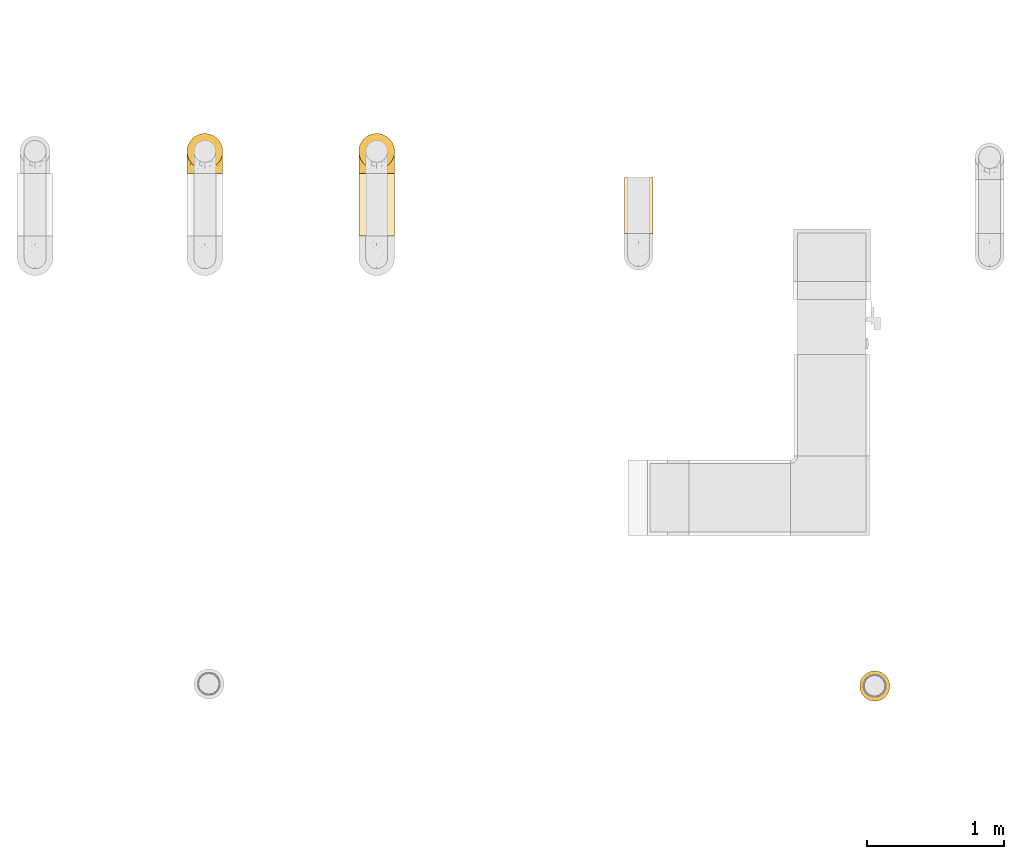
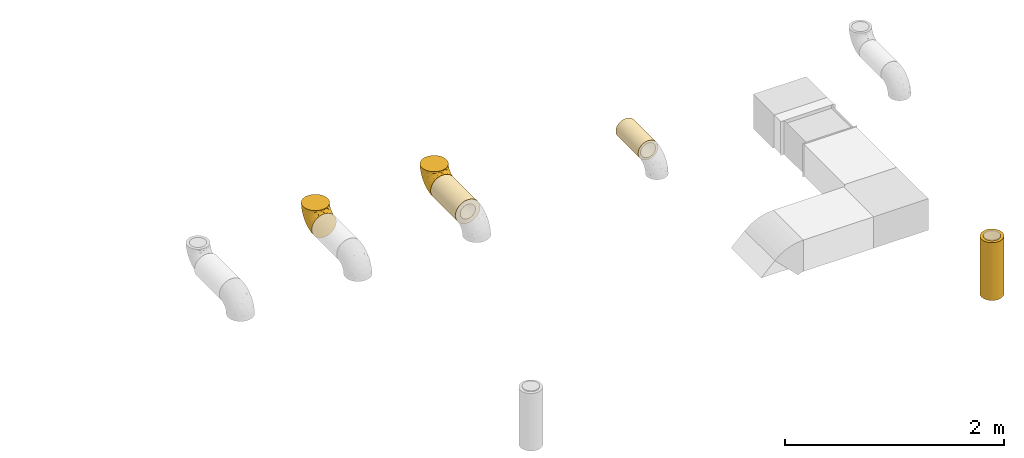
# One storey, part 3 of 14: 5 coverings.
"""IFC2X3 building model written with IfcOpenShell, lengths in millimetres."""

import ifcopenshell
import ifcopenshell.guid

model = None  # the IFC model being written
_history = None  # IfcOwnerHistory: only IFC2X3 demands one
_inside = {}  # id of a spatial element -> (the spatial element, [elements in it])
_under = {}  # id of a project, library or spatial element -> (it, [spatial elements below it])
_declared = {}  # id of a project -> (the project, [libraries it declares])
_typed = {}  # id of a type object -> (the type object, [elements of that type])
_made_of = {}  # id of a material, layer set ... -> (it, [elements and type objects made of it])


def new_model(schema):
    """Start an empty IFC model of exactly this schema.

    Asked for "IFC4X3", IfcOpenShell would pick the latest addendum, in which some entities
    have other attributes; the version numbers below select the first issue.
    IFC2X3 requires an IfcOwnerHistory on every rooted entity: one is made here for all.
    """
    global model, _history
    if schema == "IFC4X3":
        model = ifcopenshell.file(schema_version=(4, 3, 0, 0))
    else:
        model = ifcopenshell.file(schema=schema)
    _inside.clear()
    _under.clear()
    _declared.clear()
    _typed.clear()
    _made_of.clear()
    _history = None
    if model.schema == "IFC2X3":
        org = make("IfcOrganization", Name="unknown")
        user = make(
            "IfcPersonAndOrganization",
            ThePerson=make("IfcPerson", FamilyName="unknown"),
            TheOrganization=org,
        )
        app = make(
            "IfcApplication",
            ApplicationDeveloper=org,
            Version="unknown",
            ApplicationFullName="unknown",
            ApplicationIdentifier="unknown",
        )
        _history = make(
            "IfcOwnerHistory",
            OwningUser=user,
            OwningApplication=app,
            ChangeAction="ADDED",
            CreationDate=0,
        )
    return model


def make(cls, **values):
    """One entity of the class cls with the attributes given. An attribute that is None is left unset."""
    return model.create_entity(
        cls, **{name: value for name, value in values.items() if value is not None}
    )


def entity(cls, *values):
    """Any entity or typed value of the class cls, its attributes in the order of the schema. None: left unset."""
    e = model.create_entity(cls)
    for i, value in enumerate(values):
        if value is not None:
            e[i] = value
    return e


def rooted(cls, **values):
    """An entity with a GlobalId (a new one), such as an element, a storey or a relation."""
    return make(cls, GlobalId=ifcopenshell.guid.new(), OwnerHistory=_history, **values)


def si_unit(unit_type, name, prefix=None):
    """IfcSIUnit, for example si_unit("LENGTHUNIT", "METRE", prefix="MILLI")."""
    return make("IfcSIUnit", UnitType=unit_type, Prefix=prefix, Name=name)


def converted_unit(unit_type, name, factor, base, dimensions=None, offset=None):
    """IfcConversionBasedUnit, such as the inch: factor (a typed value) times the base unit."""
    return make(
        "IfcConversionBasedUnit"
        if offset is None
        else "IfcConversionBasedUnitWithOffset",
        ConversionOffset=offset,
        Dimensions=None
        if dimensions is None
        else entity("IfcDimensionalExponents", *dimensions),
        UnitType=unit_type,
        Name=name,
        ConversionFactor=make(
            "IfcMeasureWithUnit", ValueComponent=factor, UnitComponent=base
        ),
    )


def derived_unit(unit_type, elements):
    """IfcDerivedUnit: a product of units, each with its exponent."""
    return make(
        "IfcDerivedUnit",
        Elements=[
            make("IfcDerivedUnitElement", Unit=unit, Exponent=power)
            for unit, power in elements
        ],
        UnitType=unit_type,
    )


def assignment(units):
    """IfcUnitAssignment: the units of a project."""
    return None if units is None else make("IfcUnitAssignment", Units=units)


def point(xyz):
    """IfcCartesianPoint."""
    return None if xyz is None else make("IfcCartesianPoint", Coordinates=xyz)


def direction(xyz):
    """IfcDirection."""
    return None if xyz is None else make("IfcDirection", DirectionRatios=xyz)


def frame(location, z_axis=None, x_axis=None):
    """IfcAxis2Placement3D, a coordinate frame: its origin and axes. An axis left out is left unset."""
    return make(
        "IfcAxis2Placement3D",
        Location=point(location),
        Axis=direction(z_axis),
        RefDirection=direction(x_axis),
    )


def frame_2d(location, x_axis=None):
    """IfcAxis2Placement2D, a coordinate frame in the plane: its origin and x axis."""
    return make(
        "IfcAxis2Placement2D", Location=point(location), RefDirection=direction(x_axis)
    )


def origin_with_axes():
    """The frame at (0, 0, 0) with the z axis (0, 0, 1) and the x axis (1, 0, 0) written out."""
    return frame((0.0, 0.0, 0.0), z_axis=(0.0, 0.0, 1.0), x_axis=(1.0, 0.0, 0.0))


def origin_2d_with_axis():
    """The frame at (0, 0) in the plane with the x axis (1, 0) written out."""
    return frame_2d((0.0, 0.0), x_axis=(1.0, 0.0))


def place(relative_to, where):
    """IfcLocalPlacement: puts the frame where relative to a parent placement (None: the world)."""
    return make(
        "IfcLocalPlacement", PlacementRelTo=relative_to, RelativePlacement=where
    )


def context(
    kind, dimensions, precision=None, world=None, true_north=None, identifier=None
):
    """IfcGeometricRepresentationContext, for example the 3D "Model" context."""
    return make(
        "IfcGeometricRepresentationContext",
        ContextIdentifier=identifier,
        ContextType=kind,
        CoordinateSpaceDimension=dimensions,
        Precision=precision,
        WorldCoordinateSystem=world,
        TrueNorth=true_north,
    )


def subcontext(parent, identifier, kind, view, scale=None):
    """IfcGeometricRepresentationSubContext, for example "Body" below "Model"."""
    return make(
        "IfcGeometricRepresentationSubContext",
        ContextIdentifier=identifier,
        ContextType=kind,
        ParentContext=parent,
        TargetScale=scale,
        TargetView=view,
    )


def project(units=None, contexts=None):
    """IfcProject with its units and contexts."""
    return rooted(
        "IfcProject",
        Name="project",
        RepresentationContexts=contexts,
        UnitsInContext=assignment(units),
    )


def spatial(cls, under=None, at=None, **own):
    """A site, building, storey or space (cls), placed at a placement, below another one or the project."""
    s = rooted(cls, ObjectPlacement=at, **own)
    if under is not None:
        _under.setdefault(under.id(), (under, []))[1].append(s)
    return s


def profile(cls, at=None, kind="AREA", **sizes):
    """A parametric profile (cls). Its sizes go by their IFC names, for example OverallWidth=200.0."""
    return make(cls, ProfileType=kind, Position=at, **sizes)


def hollow_circle(**sizes):
    """IfcCircleHollowProfileDef."""
    return profile("IfcCircleHollowProfileDef", **sizes)


def extrude(swept, where, along, depth):
    """IfcExtrudedAreaSolid: the profile swept, set in the frame where, extruded along a direction by depth."""
    return make(
        "IfcExtrudedAreaSolid",
        SweptArea=swept,
        Position=where,
        ExtrudedDirection=direction(along),
        Depth=depth,
    )


def faces_of(points, faces, orient=None, outer=None):
    """IfcFace entities. A face is a list of loops; a loop is a list of indices into points, from 0.

    orient and outer hold one flag for each loop. By default every Orientation is true, the
    first loop of a face is its IfcFaceOuterBound and the others are IfcFaceBound.
    """
    made = []
    for i, loops in enumerate(faces):
        bounds = []
        for j, loop in enumerate(loops):
            is_outer = j == 0 if outer is None else outer[i][j]
            bounds.append(
                make(
                    "IfcFaceOuterBound" if is_outer else "IfcFaceBound",
                    Bound=make("IfcPolyLoop", Polygon=[points[k] for k in loop]),
                    Orientation=True if orient is None else orient[i][j],
                )
            )
        made.append(make("IfcFace", Bounds=bounds))
    return made


def open_shell(faces, orient=None, outer=None):
    """The faces of one IfcOpenShell. surface_model builds it on its shared points."""
    return ("IfcOpenShell", faces, orient, outer)


def surface_model(cls, points, shells):
    """IfcFaceBasedSurfaceModel or IfcShellBasedSurfaceModel (cls): surfaces that need not close."""
    shared = [point(p) for p in points]
    made = [make(c, CfsFaces=faces_of(shared, fs, o, b)) for c, fs, o, b in shells]
    if cls == "IfcFaceBasedSurfaceModel":
        return make(cls, FbsmFaces=made)
    return make(cls, SbsmBoundary=made)


def shape(context_of_items, identifier, shape_type, items):
    """IfcShapeRepresentation: the items that make up one representation, for example the "Body"."""
    return make(
        "IfcShapeRepresentation",
        ContextOfItems=context_of_items,
        RepresentationIdentifier=identifier,
        RepresentationType=shape_type,
        Items=items,
    )


def source(mapping_origin, context_of_items, identifier, shape_type, items):
    """IfcRepresentationMap: a shape defined once, which mapped items show again and again."""
    return make(
        "IfcRepresentationMap",
        MappingOrigin=mapping_origin,
        MappedRepresentation=shape(context_of_items, identifier, shape_type, items),
    )


def transform(
    local_origin,
    x_axis=None,
    y_axis=None,
    z_axis=None,
    scale=None,
    scale2=None,
    scale3=None,
    uniform=True,
):
    """IfcCartesianTransformationOperator3D, or its non-uniform kind. x_axis, y_axis, z_axis: its Axis1, 2, 3."""
    if uniform:
        return make(
            "IfcCartesianTransformationOperator3D",
            Axis1=direction(x_axis),
            Axis2=direction(y_axis),
            LocalOrigin=point(local_origin),
            Scale=scale,
            Axis3=direction(z_axis),
        )
    return make(
        "IfcCartesianTransformationOperator3DnonUniform",
        Axis1=direction(x_axis),
        Axis2=direction(y_axis),
        LocalOrigin=point(local_origin),
        Scale=scale,
        Axis3=direction(z_axis),
        Scale2=scale2,
        Scale3=scale3,
    )


def mapped(mapping_source, mapping_target):
    """IfcMappedItem: shows the shape of a source again, moved by a transform."""
    return make(
        "IfcMappedItem", MappingSource=mapping_source, MappingTarget=mapping_target
    )


def made_of(thing, what):
    """Note that an element or type object is made of a material, layer set ...; save() writes the relation."""
    if what is not None:
        _made_of.setdefault(what.id(), (what, []))[1].append(thing)
    return thing


def element(
    cls,
    number,
    at=None,
    inside=None,
    cuts=None,
    type_object=None,
    material=None,
    context=None,
    identifier="Body",
    shape_type=None,
    held_by="IfcProductDefinitionShape",
    body=None,
    shapes=None,
    **own,
):
    """One element of the class cls, such as IfcWall. Its Tag is "e" and its number.

    at: its placement. inside: the storey or other place that contains it. cuts: it is an
    opening in that element (IfcRelVoidsElement). A single representation is given by context,
    identifier, shape_type and body (its items); several are given by shapes. held_by: the class
    of the entity that holds the representations. save() writes the other relations.
    """
    e = rooted(cls, Tag="e%d" % number, ObjectPlacement=at, **own)
    if body is not None:
        shapes = [shape(context, identifier, shape_type, body)]
    if shapes is not None:
        e.Representation = make(held_by, Representations=shapes)
    if inside is not None:
        _inside.setdefault(inside.id(), (inside, []))[1].append(e)
    if cuts is not None:
        rooted(
            "IfcRelVoidsElement", RelatingBuildingElement=cuts, RelatedOpeningElement=e
        )
    if type_object is not None:
        _typed.setdefault(type_object.id(), (type_object, []))[1].append(e)
    return made_of(e, material)


def aggregate(whole, parts):
    """IfcRelAggregates: a whole, such as a stair, and the parts it consists of."""
    return rooted("IfcRelAggregates", RelatingObject=whole, RelatedObjects=parts)


def save(model, path):
    """Write the relations noted so far, then the file.

    IfcRelAggregates (storeys below a building ...), IfcRelContainedInSpatialStructure (elements
    in a storey), IfcRelDefinesByType, IfcRelAssociatesMaterial and IfcRelDeclares: one each for
    every whole, place, type object, material and project.
    """
    for whole, parts in _under.values():
        aggregate(whole, parts)
    for where, things in _inside.values():
        rooted(
            "IfcRelContainedInSpatialStructure",
            RelatedElements=things,
            RelatingStructure=where,
        )
    for kind, things in _typed.values():
        rooted("IfcRelDefinesByType", RelatedObjects=things, RelatingType=kind)
    for what, things in _made_of.values():
        rooted("IfcRelAssociatesMaterial", RelatedObjects=things, RelatingMaterial=what)
    for by, libraries in _declared.values():
        rooted("IfcRelDeclares", RelatingContext=by, RelatedDefinitions=libraries)
    model.write(path)


model = new_model("IFC2X3")

# Units and contexts
model_context = context("Model", 3, precision=0.01, world=frame((0.0, 4.29681676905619e-09, 0.0)), true_north=direction((4.01073788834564e-13, 1.0)))
plan_context = context("Plan", 3, precision=0.01, world=frame((0.0, 4.29681676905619e-09, 0.0)), true_north=direction((4.01073788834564e-13, 1.0)))
body_context = subcontext(model_context, "Body", "Model", "MODEL_VIEW")
ifc_project = project(units=[converted_unit("PLANEANGLEUNIT", "DEGREE", entity("IfcPositiveLengthMeasure", 0.0174532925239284), si_unit("PLANEANGLEUNIT", "RADIAN"), dimensions=[0, 0, 0, 0, 0, 0, 0]), si_unit("AREAUNIT", "SQUARE_METRE"), si_unit("LENGTHUNIT", "METRE", prefix="MILLI"), si_unit("MASSUNIT", "GRAM", prefix="KILO"), si_unit("POWERUNIT", "WATT"), si_unit("PRESSUREUNIT", "PASCAL", prefix="KILO"), si_unit("FORCEUNIT", "NEWTON", prefix="KILO"), si_unit("ELECTRICVOLTAGEUNIT", "VOLT"), si_unit("ELECTRICCURRENTUNIT", "AMPERE"), si_unit("THERMODYNAMICTEMPERATUREUNIT", "DEGREE_CELSIUS"), si_unit("TIMEUNIT", "SECOND"), si_unit("VOLUMEUNIT", "CUBIC_METRE"), derived_unit("LINEARVELOCITYUNIT", [(si_unit("LENGTHUNIT", "METRE"), 1), (si_unit("TIMEUNIT", "SECOND"), -1)]), derived_unit("VOLUMETRICFLOWRATEUNIT", [(si_unit("VOLUMEUNIT", "CUBIC_METRE"), 1), (si_unit("TIMEUNIT", "SECOND"), -1)]), derived_unit("THERMALTRANSMITTANCEUNIT", [(si_unit("POWERUNIT", "WATT"), 1), (si_unit("THERMODYNAMICTEMPERATUREUNIT", "KELVIN"), -1), (si_unit("AREAUNIT", "SQUARE_METRE"), -1)]), derived_unit("SOUNDPRESSUREUNIT", [(si_unit("PRESSUREUNIT", "PASCAL"), 1)])], contexts=[model_context, plan_context])

# Site, building, storey
site_placement = place(None, frame((0.0, -4.29681676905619e-09, 0.0), z_axis=(0.0, 0.0, 1.0), x_axis=(1.0, 0.0, 0.0)))
site = spatial("IfcSite", under=ifc_project, at=site_placement, CompositionType="ELEMENT")
building_placement = place(site_placement, frame((0.0, 4.29681676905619e-09, 0.0), z_axis=(0.0, 0.0, 1.0), x_axis=(1.0, 0.0, 0.0)))
building = spatial("IfcBuilding", under=site, at=building_placement, Name="mc-building", CompositionType="ELEMENT")
storey_placement = place(building_placement, frame((0.0, 0.0, 205200.0), z_axis=(0.0, 0.0, 1.0), x_axis=(1.0, 0.0, 0.0)))
storey = spatial("IfcBuildingStorey", under=building, at=storey_placement, Name="Nivå D + 1,2 m", CompositionType="ELEMENT", Elevation=205200.0)

# Coverings
shared_shape_1 = source(origin_with_axes(), body_context, "Body", "SweptSolid", [
    extrude(hollow_circle(Radius=110.0, WallThickness=30.0, at=origin_2d_with_axis()), frame((0.0, 0.0, 0.0), z_axis=(1.0, 0.0, 0.0), x_axis=(0.0, 1.0, 0.0)), (0.0, 0.0, 1.0), 644.4),
])
covering_1_placement = place(storey_placement, frame((347455.32437, 462060.0, 4506.87568999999), z_axis=(0.0, -1.0, 0.0), x_axis=(0.0, 0.0, -1.0)))
element("IfcCovering", 1, at=covering_1_placement, inside=storey, Name="B-EI60", PredefinedType="INSULATION", context=body_context, shape_type="MappedRepresentation", body=[
    mapped(shared_shape_1, transform((0.0, 0.0, 0.0), scale=1.0)),
])
shared_shape_2 = source(origin_with_axes(), body_context, "Body", "SweptSolid", [
    extrude(hollow_circle(Radius=130.0, WallThickness=50.0, at=origin_2d_with_axis()), frame((0.0, 0.0, 0.0), z_axis=(1.0, 0.0, 0.0), x_axis=(0.0, 1.0, 0.0)), (0.0, 0.0, 1.0), 455.0),
])
covering_2_placement = place(storey_placement, frame((343825.73195, 465796.0, 4060.0), z_axis=(0.0, 0.0, 1.0), x_axis=(0.0, -1.0, 0.0)))
element("IfcCovering", 2, at=covering_2_placement, inside=storey, Name="B-EI60", PredefinedType="INSULATION", context=body_context, shape_type="MappedRepresentation", body=[
    mapped(shared_shape_2, transform((0.0, 0.0, 0.0), scale=1.0)),
])
shared_shape_3 = source(origin_with_axes(), body_context, "Body", "SweptSolid", [
    extrude(hollow_circle(Radius=105.0, WallThickness=25.0, at=origin_2d_with_axis()), frame((0.0, 0.0, 0.0), z_axis=(1.0, 0.0, 0.0), x_axis=(0.0, 1.0, 0.0)), (0.0, 0.0, 1.0), 410.0),
])
covering_3_placement = place(storey_placement, frame((345734.4963, 465766.0, 4065.0), z_axis=(0.0, 0.0, 1.0), x_axis=(0.0, -1.0, 0.0)))
element("IfcCovering", 3, at=covering_3_placement, inside=storey, Name="B-EI60", PredefinedType="INSULATION", context=body_context, shape_type="MappedRepresentation", body=[
    mapped(shared_shape_3, transform((0.0, 0.0, 0.0), scale=1.0)),
])
shared_shape_4 = source(origin_with_axes(), body_context, "Body", "SurfaceModel", [
    surface_model("IfcShellBasedSurfaceModel", [(59.01724, 160.0, 115.83162), (76.41026, 160.0, 105.17353), (40.17112, 160.0, 123.6377), (20.33591, 160.0, 128.39958), (0.0, 160.0, 130.0), (91.92191, 160.0, 91.92586), (105.17026, 160.0, 76.41477), (123.636, 160.0, 40.17634), (-128.3987, 160.0, -20.3414), (115.8291, 160.0, 59.02218), (-123.6377, 160.0, 40.17112), (-130.0, 160.0, 0.0), (-40.17634, 160.0, 123.636), (-20.3414, 160.0, 128.3987), (-59.02218, 160.0, 115.8291), (-76.41477, 160.0, 105.17026), (-105.17353, 160.0, 76.41026), (-91.92586, 160.0, 91.92191), (-115.83162, 160.0, 59.01724), (-128.39958, 160.0, 20.33591), (128.3987, 160.0, 20.3414), (130.0, 160.0, 0.0), (128.39958, 160.0, -20.33591), (123.6377, 160.0, -40.17112), (115.83162, 160.0, -59.01724), (105.17353, 160.0, -76.41026), (91.92586, 160.0, -91.92191), (76.41477, 160.0, -105.17026), (59.02218, 160.0, -115.8291), (40.17634, 160.0, -123.636), (20.3414, 160.0, -128.3987), (-91.92191, 160.0, -91.92586), (-105.17026, 160.0, -76.41477), (-115.8291, 160.0, -59.02218), (-123.636, 160.0, -40.17634), (0.0, 160.0, -130.0), (-20.33591, 160.0, -128.39958), (-40.17112, 160.0, -123.6377), (-59.01724, 160.0, -115.83162), (-76.41026, 160.0, -105.17353), (-160.0, 125.57036, -33.64648), (-160.0, 125.57036, 33.64648), (-160.0, 130.0, 0.0), (-160.0, 91.92389, -91.92389), (-160.0, 112.5833, -65.0), (-160.0, -65.0, 112.5833), (-160.0, 65.0, -112.5833), (-160.0, 91.92389, 91.92389), (-160.0, 112.5833, 65.0), (-160.0, 65.0, 112.5833), (-160.0, 0.0, 130.0), (-160.0, 33.64648, 125.57036), (-160.0, 0.0, -130.0), (-160.0, 33.64648, -125.57036), (-160.0, -112.5833, -65.0), (-160.0, -33.64648, -125.57036), (-160.0, -65.0, -112.5833), (-160.0, -91.92389, -91.92389), (-160.0, -130.0, 0.0), (-160.0, -125.57036, -33.64648), (-160.0, -91.92389, 91.92389), (-160.0, -33.64648, 125.57036), (-160.0, -125.57036, 33.64648), (-160.0, -112.5833, 65.0), (-80.56859, -113.93793, 34.92222), (-103.42381, -124.42773, 0.0), (-49.0218, -107.92506, 0.0), (30.5519, 90.52532, 122.74476), (1.92649, 27.23352, 120.24946), (18.06969, 10.31659, 107.82278), (-5.45187, 118.58896, 130.0), (60.2514, -19.71714, 38.17313), (0.38415, -76.85773, 31.8021), (45.06097, -45.06097, 0.0), (1.11537, -81.12619, 0.0), (-38.91511, -97.55879, 37.0734), (47.56262, 21.39155, 94.20115), (18.09358, -17.46536, 92.42646), (95.71492, 96.52468, 78.69474), (74.36661, 45.52112, 82.05479), (91.14617, 44.6794, 57.97438), (-104.20453, -51.06398, 116.18709), (81.12619, -1.11537, 0.0), (118.65978, 86.76705, 22.01661), (-67.00054, -19.16596, 123.07457), (-117.52666, -20.23866, 127.53899), (60.55201, 65.21026, 102.42348), (-72.05195, -72.61796, 95.04919), (-122.03525, -80.26666, 99.84908), (-98.59574, -99.91118, 73.735), (69.21672, 113.88396, 107.01459), (-80.0, 21.43593, 130.0), (-118.58896, 5.45187, 130.0), (-16.10718, 45.25329, 127.75726), (-43.86731, -39.65589, 108.91558), (-21.43593, 80.0, 130.0), (-46.86291, 46.86291, 130.0), (102.80175, 45.84894, 29.86674), (114.75684, 97.16736, 45.30616), (107.92506, 49.0218, 0.0), (124.42773, 103.42381, 0.0), (58.67526, -1.90029, 65.85452), (19.79358, -50.20166, 57.47359), (-22.80235, -51.5335, 91.71715), (-33.84576, -85.97704, 57.80577), (-43.57231, -76.483, 78.54388), (-122.84247, 32.51828, 127.11974), (-148.93028, 121.67083, 49.74884), (-100.38724, 42.93862, 126.80733), (-83.08085, 59.75703, 125.57035), (-102.76006, 73.06654, 117.36095), (-123.30349, 144.34796, 49.74752), (-112.07813, 149.05553, 67.92312), (-127.25149, 152.52085, 30.34706), (-117.80872, 58.14121, 120.10434), (-88.18017, 136.49148, 98.85079), (-109.71269, 134.46857, 78.52708), (-96.64882, 124.06407, 96.44717), (-140.85509, 51.42381, 120.10434), (-36.17624, 103.62797, 127.77516), (-33.60716, 131.13233, 126.407), (-58.59313, 116.74345, 120.10277), (-56.48318, 80.56876, 126.60401), (-153.54771, 128.00772, 26.04855), (-147.1112, 130.09003, 25.71562), (-135.39813, 108.73335, 79.13898), (-128.08215, 119.51038, 71.6951), (-140.04413, 124.92474, 50.84316), (-148.44866, 104.32157, 79.13898), (-139.07163, 81.89426, 103.13593), (-116.2547, 90.19915, 104.28096), (-130.77817, 146.14604, 24.55224), (-132.77742, 149.63454, 0.0), (-131.38871, 154.81728, 0.0), (-85.71567, 89.58716, 116.51961), (-57.53496, 138.8905, 117.61255), (-134.01924, 145.0, 0.0), (-139.50962, 139.50962, 0.0), (-136.22948, 138.08336, 24.51438), (-121.78743, 129.40288, 67.59095), (-102.53761, 110.92036, 98.85079), (-133.55963, 131.68837, 46.85673), (-129.71079, 138.90674, 41.81982), (-141.0659, 133.70241, 24.88843), (-145.0, 134.01924, 0.0), (-81.61176, 111.04042, 111.05478), (-152.49999, 132.00962, 0.0), (-138.81563, 125.08003, -51.97789), (-137.31917, 107.85499, -79.13899), (-149.44384, 121.52622, -49.74885), (-127.25034, 152.52009, -30.35243), (-130.77776, 146.14585, -24.55463), (-78.42372, 53.68772, -127.37422), (-103.9756, 38.47486, -127.33605), (-96.41185, 77.13031, -117.53616), (-149.5817, 104.09847, -79.13898), (-134.74212, 140.63942, -21.70294), (-128.8988, 139.91441, -42.15093), (-132.17222, 133.92065, -45.27347), (-130.4961, 29.82337, -127.26584), (-118.58896, 5.45187, -130.0), (-153.90073, 128.24664, -24.52244), (-140.83175, 81.44377, -103.13594), (-80.0, 21.43593, -130.0), (-46.86291, 46.86291, -130.0), (-123.30205, 144.34596, -49.75263), (-127.14874, 124.71109, -66.36046), (-125.74004, 55.207, -120.10434), (-70.23437, 139.49919, -110.84426), (-114.5586, 119.08173, -84.43058), (-88.05841, 100.60304, -111.58038), (-110.88683, 99.25574, -100.96962), (-118.48442, 151.4471, -55.3831), (-101.88489, 140.97739, -84.43058), (-120.31238, 80.31896, -108.91066), (-120.52187, 133.49991, -65.22626), (-138.70887, 135.81532, -23.92906), (-87.35385, 123.11675, -103.6026), (-105.96506, 128.61253, -85.9751), (-58.58706, 116.74466, -120.10489), (-33.60151, 131.13292, -126.40829), (-36.17161, 103.62951, -127.77582), (-59.07493, 82.55747, -125.79757), (-5.45187, 118.58896, -130.0), (-21.43593, 80.0, -130.0), (-147.58241, 130.02129, -25.1132), (-125.51039, 112.08565, -81.89255), (-76.76775, -9.21803, -126.81953), (-38.63679, 20.47339, -127.58847), (-27.19988, -1.96041, -120.22991), (91.15216, 44.68818, -57.97081), (98.0984, 113.49398, -80.27422), (114.75956, 97.17171, -45.30163), (-160.0, -16.82324, -127.78518), (-114.4618, -28.53532, -125.48675), (12.67496, 73.34989, -125.69007), (10.77656, 30.86585, -118.20669), (-75.21657, -43.37087, -115.15021), (-122.03353, -80.26658, -99.84893), (-98.59494, -99.91103, -73.73492), (67.04383, 3.10858, -58.72921), (61.56116, 21.5886, -81.54865), (-80.5684, -113.93812, -34.92137), (51.77643, 111.81077, -116.74465), (42.51659, 61.72003, -112.52305), (-72.04914, -72.61722, -95.0489), (-113.64656, -61.02019, -112.10082), (-29.31416, -41.71237, -102.19767), (35.49308, -28.81692, -66.35641), (60.251, -19.71673, -38.17498), (-33.84507, -85.97776, -57.80383), (15.69599, -61.27922, -43.38087), (-24.96098, -92.95649, -28.90987), (-0.08404, -7.13085, -108.69414), (18.09601, -17.46805, -92.42289), (41.74402, 24.26728, -99.92678), (79.83278, 81.96377, -91.6378), (-14.12562, -58.28093, -79.91294), (102.8051, 45.85557, -29.8649), (118.66066, 86.76898, -22.01448), (-56.48186, -83.53017, -77.16845)], [open_shell([[[0, 1, 2]], [[3, 2, 1]], [[4, 3, 5]], [[3, 1, 5]], [[6, 7, 8]], [[6, 9, 7]], [[5, 6, 8]], [[5, 10, 4]], [[8, 11, 5]], [[12, 13, 14]], [[15, 16, 17]], [[14, 16, 15]], [[13, 4, 14]], [[16, 14, 18]], [[10, 11, 19]], [[18, 14, 4]], [[4, 10, 18]], [[5, 11, 10]], [[20, 21, 7]], [[21, 22, 23]], [[23, 24, 25]], [[21, 23, 26]], [[26, 23, 25]], [[26, 27, 28]], [[29, 8, 21]], [[21, 28, 29]], [[21, 26, 28]], [[8, 29, 30]], [[31, 32, 33]], [[8, 33, 34]], [[33, 8, 31]], [[31, 8, 35]], [[35, 36, 37]], [[31, 38, 39]], [[31, 37, 38]], [[37, 31, 35]], [[8, 30, 35]], [[21, 8, 7]], [[40, 41, 42]], [[43, 40, 44]], [[45, 43, 46]], [[41, 40, 43]], [[43, 45, 41]], [[41, 47, 48]], [[47, 41, 49]], [[49, 50, 51]], [[45, 50, 49]], [[45, 49, 41]], [[52, 46, 53]], [[54, 52, 55]], [[54, 55, 56]], [[52, 54, 45]], [[54, 56, 57]], [[58, 54, 59]], [[54, 60, 45]], [[61, 50, 45]], [[60, 62, 63]], [[62, 60, 58]], [[58, 60, 54]], [[45, 46, 52]], [[64, 65, 66]], [[65, 62, 58]], [[67, 68, 69]], [[70, 67, 3]], [[71, 72, 73]], [[64, 63, 62]], [[74, 75, 66]], [[76, 69, 77]], [[78, 79, 80]], [[72, 75, 74]], [[61, 45, 81]], [[71, 73, 82]], [[83, 20, 7]], [[81, 84, 85]], [[79, 78, 86]], [[50, 61, 85]], [[87, 88, 89]], [[90, 5, 1]], [[2, 67, 90]], [[85, 91, 92]], [[88, 45, 60]], [[93, 84, 68]], [[85, 84, 91]], [[84, 94, 68]], [[95, 96, 93]], [[93, 91, 84]], [[0, 90, 1]], [[97, 98, 80]], [[63, 89, 60]], [[97, 82, 99]], [[7, 9, 98]], [[83, 98, 97]], [[64, 89, 63]], [[98, 83, 7]], [[90, 0, 2]], [[9, 6, 98]], [[78, 90, 86]], [[100, 21, 20]], [[71, 101, 102]], [[6, 78, 98]], [[77, 94, 103]], [[93, 70, 95]], [[78, 6, 5]], [[4, 70, 3]], [[102, 72, 71]], [[70, 93, 67]], [[93, 96, 91]], [[90, 67, 86]], [[64, 104, 89]], [[2, 3, 67]], [[62, 65, 64]], [[98, 78, 80]], [[90, 78, 5]], [[81, 94, 84]], [[67, 93, 68]], [[82, 97, 71]], [[105, 89, 104]], [[80, 79, 101]], [[88, 81, 45]], [[94, 81, 87]], [[103, 94, 87]], [[94, 77, 69]], [[71, 97, 80]], [[83, 99, 100]], [[86, 76, 79]], [[80, 101, 71]], [[76, 101, 79]], [[77, 103, 102]], [[77, 102, 101]], [[72, 102, 104]], [[75, 72, 104]], [[72, 74, 73]], [[86, 67, 69]], [[101, 76, 77]], [[86, 69, 76]], [[94, 69, 68]], [[87, 105, 103]], [[103, 105, 102]], [[89, 105, 87]], [[102, 105, 104]], [[99, 83, 97]], [[20, 83, 100]], [[50, 85, 92]], [[81, 85, 61]], [[89, 88, 60]], [[81, 88, 87]], [[104, 64, 75]], [[66, 75, 64]], [[92, 106, 50]], [[48, 107, 41]], [[108, 109, 110]], [[111, 112, 113]], [[106, 108, 114]], [[115, 112, 116]], [[116, 117, 115]], [[106, 114, 118]], [[119, 120, 121]], [[122, 109, 96]], [[41, 107, 123]], [[107, 124, 123]], [[125, 126, 127]], [[128, 107, 48]], [[129, 130, 125]], [[70, 13, 120]], [[128, 48, 47]], [[129, 49, 118]], [[131, 113, 132]], [[19, 133, 113]], [[120, 119, 70]], [[127, 124, 107]], [[70, 4, 13]], [[134, 110, 109]], [[112, 16, 18]], [[135, 12, 14]], [[51, 118, 49]], [[135, 15, 115]], [[17, 115, 15]], [[135, 120, 12]], [[134, 109, 122]], [[121, 120, 135]], [[18, 10, 113]], [[136, 137, 138]], [[139, 126, 140]], [[112, 18, 113]], [[91, 96, 109]], [[111, 139, 116]], [[131, 132, 136]], [[17, 112, 115]], [[49, 129, 47]], [[19, 113, 10]], [[17, 16, 112]], [[116, 112, 111]], [[113, 131, 111]], [[120, 13, 12]], [[138, 141, 142]], [[142, 111, 131]], [[96, 95, 122]], [[143, 137, 144]], [[134, 130, 110]], [[130, 129, 114]], [[128, 129, 125]], [[111, 142, 139]], [[145, 117, 140]], [[131, 136, 138]], [[142, 141, 139]], [[126, 139, 141]], [[117, 139, 140]], [[110, 114, 108]], [[41, 123, 42]], [[126, 130, 140]], [[119, 122, 95]], [[134, 145, 140]], [[127, 126, 141]], [[126, 125, 130]], [[124, 143, 144]], [[125, 127, 107]], [[143, 127, 141]], [[146, 124, 144]], [[145, 122, 121]], [[130, 134, 140]], [[127, 143, 124]], [[143, 141, 138]], [[129, 128, 47]], [[107, 128, 125]], [[138, 142, 131]], [[143, 138, 137]], [[124, 146, 123]], [[42, 123, 146]], [[122, 119, 121]], [[70, 119, 95]], [[15, 135, 14]], [[115, 121, 135]], [[122, 145, 134]], [[115, 145, 121]], [[115, 117, 145]], [[139, 117, 116]], [[51, 50, 106]], [[129, 118, 114]], [[51, 106, 118]], [[108, 92, 91]], [[92, 108, 106]], [[91, 109, 108]], [[133, 19, 11]], [[133, 132, 113]], [[130, 114, 110]], [[147, 148, 149]], [[150, 151, 132]], [[152, 153, 154]], [[149, 148, 155]], [[156, 157, 158]], [[133, 11, 8]], [[159, 153, 160]], [[161, 42, 146]], [[46, 43, 162]], [[163, 152, 164]], [[52, 53, 159]], [[165, 157, 151]], [[147, 158, 166]], [[53, 46, 167]], [[38, 168, 39]], [[167, 153, 159]], [[169, 170, 171]], [[172, 32, 173]], [[167, 162, 174]], [[155, 43, 44]], [[8, 150, 133]], [[169, 166, 175]], [[176, 137, 156]], [[173, 168, 177]], [[172, 150, 34]], [[44, 40, 149]], [[172, 165, 150]], [[170, 178, 177]], [[177, 168, 179]], [[31, 173, 32]], [[31, 168, 173]], [[38, 180, 168]], [[179, 180, 181]], [[182, 179, 181]], [[38, 37, 180]], [[31, 39, 168]], [[168, 180, 179]], [[174, 171, 154]], [[35, 183, 36]], [[33, 172, 34]], [[136, 132, 151]], [[180, 37, 36]], [[36, 183, 180]], [[182, 184, 164]], [[181, 183, 184]], [[150, 8, 34]], [[151, 150, 165]], [[46, 162, 167]], [[146, 185, 161]], [[176, 147, 185]], [[179, 182, 170]], [[178, 169, 175]], [[152, 182, 164]], [[170, 154, 171]], [[155, 162, 43]], [[167, 174, 154]], [[176, 156, 158]], [[136, 151, 156]], [[137, 136, 156]], [[147, 149, 185]], [[144, 185, 146]], [[186, 166, 169]], [[153, 152, 163]], [[182, 152, 154]], [[160, 153, 163]], [[154, 153, 167]], [[52, 159, 160]], [[53, 167, 159]], [[147, 176, 158]], [[144, 137, 176]], [[185, 144, 176]], [[161, 149, 40]], [[183, 181, 180]], [[182, 181, 184]], [[149, 155, 44]], [[162, 155, 148]], [[32, 172, 33]], [[173, 165, 172]], [[162, 148, 174]], [[171, 186, 169]], [[186, 174, 148]], [[169, 178, 170]], [[179, 170, 177]], [[182, 154, 170]], [[174, 186, 171]], [[147, 186, 148]], [[147, 166, 186]], [[158, 157, 175]], [[158, 175, 166]], [[173, 175, 165]], [[175, 173, 178]], [[173, 177, 178]], [[149, 161, 185]], [[42, 161, 40]], [[151, 157, 156]], [[175, 157, 165]], [[150, 132, 133]], [[187, 188, 189]], [[190, 191, 192]], [[24, 191, 25]], [[193, 160, 194]], [[163, 164, 188]], [[188, 195, 196]], [[197, 187, 189]], [[163, 187, 160]], [[57, 198, 199]], [[184, 195, 188]], [[200, 201, 190]], [[195, 184, 183]], [[199, 202, 54]], [[195, 203, 204]], [[65, 58, 59]], [[194, 55, 193]], [[57, 56, 198]], [[205, 198, 206]], [[207, 205, 197]], [[208, 200, 209]], [[66, 65, 202]], [[210, 211, 212]], [[207, 213, 214]], [[66, 202, 212]], [[57, 199, 54]], [[191, 26, 25]], [[203, 29, 28]], [[203, 28, 27]], [[183, 35, 30]], [[201, 215, 216]], [[65, 59, 202]], [[30, 203, 195]], [[26, 191, 27]], [[206, 55, 194]], [[191, 216, 27]], [[211, 73, 74]], [[217, 208, 211]], [[203, 27, 216]], [[205, 207, 217]], [[209, 200, 218]], [[190, 192, 218]], [[209, 82, 73]], [[218, 82, 209]], [[204, 203, 216]], [[23, 192, 24]], [[192, 191, 24]], [[219, 22, 100]], [[204, 215, 196]], [[21, 100, 22]], [[219, 99, 218]], [[30, 195, 183]], [[216, 191, 190]], [[189, 213, 207]], [[217, 211, 210]], [[193, 52, 160]], [[29, 203, 30]], [[54, 202, 59]], [[219, 23, 22]], [[205, 220, 199]], [[202, 199, 210]], [[219, 218, 192]], [[218, 99, 82]], [[163, 188, 187]], [[188, 164, 184]], [[189, 207, 197]], [[217, 207, 214]], [[208, 217, 214]], [[217, 210, 220]], [[208, 214, 201]], [[208, 209, 211]], [[215, 201, 214]], [[190, 201, 216]], [[73, 211, 209]], [[210, 212, 202]], [[211, 74, 212]], [[66, 212, 74]], [[196, 213, 189]], [[213, 196, 215]], [[188, 196, 189]], [[195, 204, 196]], [[219, 192, 23]], [[99, 219, 100]], [[160, 187, 194]], [[187, 197, 194]], [[206, 194, 197]], [[206, 198, 56]], [[199, 198, 205]], [[55, 206, 56]], [[205, 206, 197]], [[217, 220, 205]], [[210, 199, 220]], [[201, 200, 208]], [[218, 200, 190]], [[213, 215, 214]], [[216, 215, 204]]])]),
])
for number, where, z_axis, x_axis in (
    (4, (342573.81048, 465956.0, 4065.0), (1.0, 0.0, 0.0), (0.0, 1.0, 0.0)),
    (5, (343825.73195, 465956.0, 4060.0), (1.0, 0.0, 0.0), (0.0, 1.0, 0.0)),
):
    element("IfcCovering", number, at=place(storey_placement, frame(where, z_axis=z_axis, x_axis=x_axis)), inside=storey, Name="B-EI60", PredefinedType="INSULATION", context=body_context, shape_type="MappedRepresentation", body=[
        mapped(shared_shape_4, transform((0.0, 0.0, 0.0), scale=1.0)),
    ])

save(model, "model.ifc")
